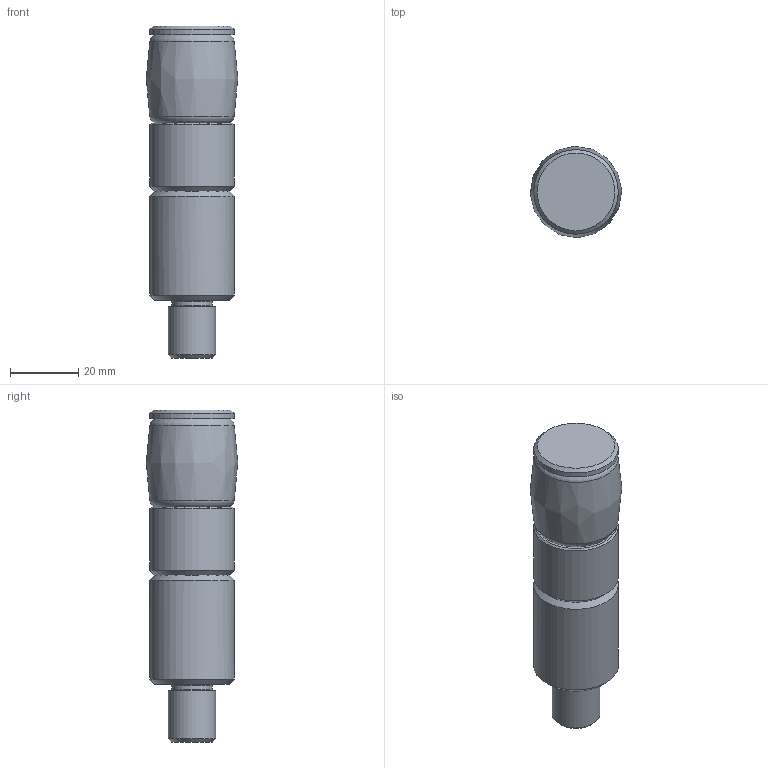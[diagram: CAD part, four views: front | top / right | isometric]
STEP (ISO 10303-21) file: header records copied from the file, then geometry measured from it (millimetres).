
FILE_DESCRIPTION(/* description */ ('','CAx-IF Rec.Pracs.---Representation and Presentation of Product Manufacturing Information (PMI)---3.8---2014-02-18'),/* implementation_level */ '2;1');
FILE_NAME(/* name */ 'W:\Technik\Konstruktion\CAD-Daten\EOAT\GR04_\GR04.F227\Kundenzeichnungen\GR04.F227_Kd.stp',/* time_stamp */ '2019-04-04T08:13:48+02:00',/* author */ ('JMolter'),/* organization */ (''),/* preprocessor_version */ 'ST-DEVELOPER v16.13',/* originating_system */ 'Autodesk Inventor 2018',/* authorisation */ '');
FILE_SCHEMA (('AP242_MANAGED_MODEL_BASED_3D_ENGINEERING_MIM_LF { 1 0 10303 442 1 1 4 }'));
Length unit declared in the file: millimetre
Products named in the file (1): GR04.F227_Kd
Bounding box: 26.88 x 26.88 x 97.5 mm (x, y, z)
Volume: 42514.5 mm3; surface area: 8343.8 mm2
Topology: 1 solids, 1 shells, 22 faces, 43 edges, 27 vertices
Faces by surface type: cone 6, plane 6, cylinder 5, torus 4, bspline 1
Full cylindrical faces by diameter (mm): 11.8 x1, 14 x1, 24.8 x1, 24.95 x2
Entity records: 676 total; most frequent: DIRECTION 124, CARTESIAN_POINT 123, AXIS2_PLACEMENT_3D 66, ORIENTED_EDGE 48, EDGE_LOOP 41, EDGE_CURVE 24, STYLED_ITEM 24, CIRCLE 23
